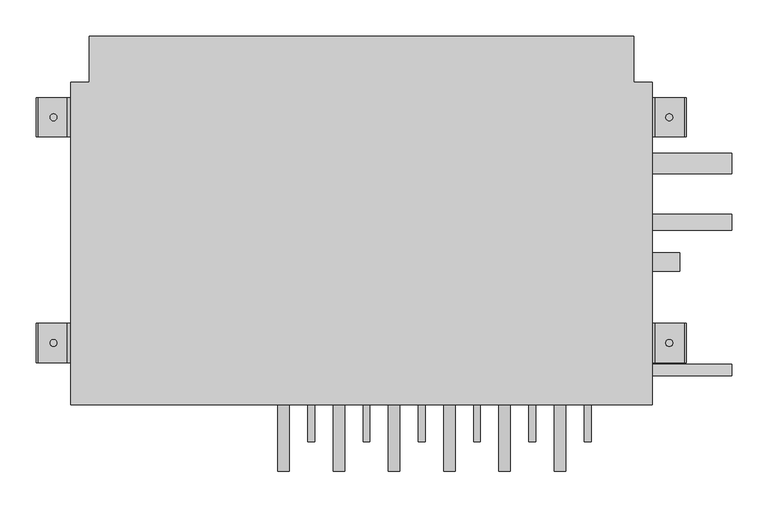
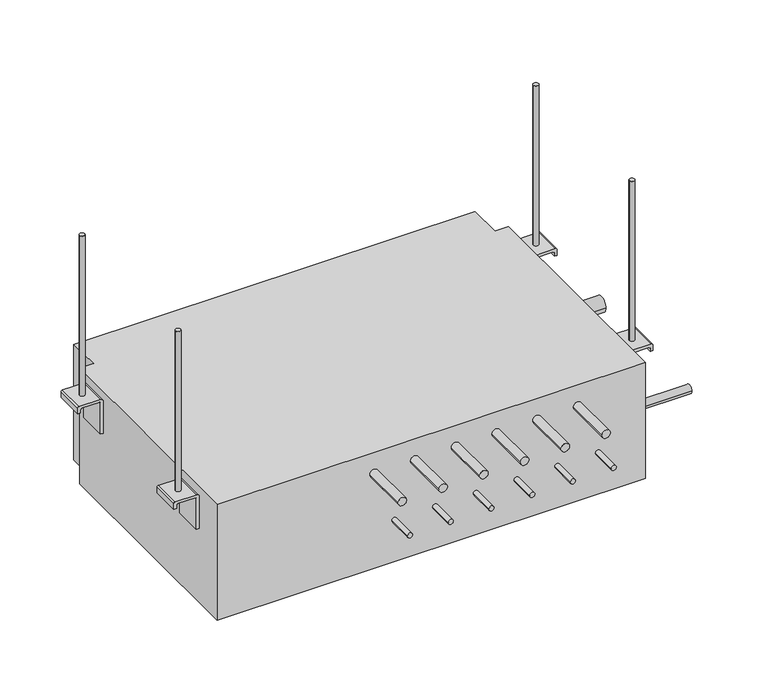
"""IFC4 building model written with IfcOpenShell, lengths in millimetres: proxy geometry, Lennox-VRF-Mode_Selection_Box-V8MSBB04-2P_Series : V8MSBB04."""

import ifcopenshell
import ifcopenshell.guid

model = None  # the IFC model being written
_history = None  # IfcOwnerHistory: only IFC2X3 demands one
_inside = {}  # id of a spatial element -> (the spatial element, [elements in it])
_under = {}  # id of a project, library or spatial element -> (it, [spatial elements below it])
_declared = {}  # id of a project -> (the project, [libraries it declares])
_typed = {}  # id of a type object -> (the type object, [elements of that type])
_made_of = {}  # id of a material, layer set ... -> (it, [elements and type objects made of it])


def new_model(schema):
    """Start an empty IFC model of exactly this schema.

    Asked for "IFC4X3", IfcOpenShell would pick the latest addendum, in which some entities
    have other attributes; the version numbers below select the first issue.
    IFC2X3 requires an IfcOwnerHistory on every rooted entity: one is made here for all.
    """
    global model, _history
    if schema == "IFC4X3":
        model = ifcopenshell.file(schema_version=(4, 3, 0, 0))
    else:
        model = ifcopenshell.file(schema=schema)
    _inside.clear()
    _under.clear()
    _declared.clear()
    _typed.clear()
    _made_of.clear()
    _history = None
    if model.schema == "IFC2X3":
        org = make("IfcOrganization", Name="unknown")
        user = make(
            "IfcPersonAndOrganization",
            ThePerson=make("IfcPerson", FamilyName="unknown"),
            TheOrganization=org,
        )
        app = make(
            "IfcApplication",
            ApplicationDeveloper=org,
            Version="unknown",
            ApplicationFullName="unknown",
            ApplicationIdentifier="unknown",
        )
        _history = make(
            "IfcOwnerHistory",
            OwningUser=user,
            OwningApplication=app,
            ChangeAction="ADDED",
            CreationDate=0,
        )
    return model


def make(cls, **values):
    """One entity of the class cls with the attributes given. An attribute that is None is left unset."""
    return model.create_entity(
        cls, **{name: value for name, value in values.items() if value is not None}
    )


def rooted(cls, **values):
    """An entity with a GlobalId (a new one), such as an element, a storey or a relation."""
    return make(cls, GlobalId=ifcopenshell.guid.new(), OwnerHistory=_history, **values)


def si_unit(unit_type, name, prefix=None):
    """IfcSIUnit, for example si_unit("LENGTHUNIT", "METRE", prefix="MILLI")."""
    return make("IfcSIUnit", UnitType=unit_type, Prefix=prefix, Name=name)


def assignment(units):
    """IfcUnitAssignment: the units of a project."""
    return None if units is None else make("IfcUnitAssignment", Units=units)


def point(xyz):
    """IfcCartesianPoint."""
    return None if xyz is None else make("IfcCartesianPoint", Coordinates=xyz)


def direction(xyz):
    """IfcDirection."""
    return None if xyz is None else make("IfcDirection", DirectionRatios=xyz)


def frame(location, z_axis=None, x_axis=None):
    """IfcAxis2Placement3D, a coordinate frame: its origin and axes. An axis left out is left unset."""
    return make(
        "IfcAxis2Placement3D",
        Location=point(location),
        Axis=direction(z_axis),
        RefDirection=direction(x_axis),
    )


def frame_2d(location, x_axis=None):
    """IfcAxis2Placement2D, a coordinate frame in the plane: its origin and x axis."""
    return make(
        "IfcAxis2Placement2D", Location=point(location), RefDirection=direction(x_axis)
    )


def origin():
    """The frame at (0, 0, 0) with its axes left unset."""
    return frame((0.0, 0.0, 0.0))


def origin_with_axes():
    """The frame at (0, 0, 0) with the z axis (0, 0, 1) and the x axis (1, 0, 0) written out."""
    return frame((0.0, 0.0, 0.0), z_axis=(0.0, 0.0, 1.0), x_axis=(1.0, 0.0, 0.0))


def place(relative_to, where):
    """IfcLocalPlacement: puts the frame where relative to a parent placement (None: the world)."""
    return make(
        "IfcLocalPlacement", PlacementRelTo=relative_to, RelativePlacement=where
    )


def context(
    kind, dimensions, precision=None, world=None, true_north=None, identifier=None
):
    """IfcGeometricRepresentationContext, for example the 3D "Model" context."""
    return make(
        "IfcGeometricRepresentationContext",
        ContextIdentifier=identifier,
        ContextType=kind,
        CoordinateSpaceDimension=dimensions,
        Precision=precision,
        WorldCoordinateSystem=world,
        TrueNorth=true_north,
    )


def project(units=None, contexts=None):
    """IfcProject with its units and contexts."""
    return rooted(
        "IfcProject",
        Name="project",
        RepresentationContexts=contexts,
        UnitsInContext=assignment(units),
    )


def spatial(cls, under=None, at=None, **own):
    """A site, building, storey or space (cls), placed at a placement, below another one or the project."""
    s = rooted(cls, ObjectPlacement=at, **own)
    if under is not None:
        _under.setdefault(under.id(), (under, []))[1].append(s)
    return s


def polyline(points):
    """IfcPolyline through the points."""
    return make("IfcPolyline", Points=[point(p) for p in points])


def circle_curve(where, radius):
    """IfcCircle in the frame where."""
    return make("IfcCircle", Position=where, Radius=radius)


def trimmed(basis, trim1, trim2, sense, master):
    """IfcTrimmedCurve: the piece of a basis curve between two trims."""
    return make(
        "IfcTrimmedCurve",
        BasisCurve=basis,
        Trim1=trim1,
        Trim2=trim2,
        SenseAgreement=sense,
        MasterRepresentation=master,
    )


def segment(curve, same_sense, transition):
    """IfcCompositeCurveSegment."""
    return make(
        "IfcCompositeCurveSegment",
        Transition=transition,
        SameSense=same_sense,
        ParentCurve=curve,
    )


def composite_curve(segments, self_intersect=None):
    """IfcCompositeCurve: segments joined end to end."""
    return make("IfcCompositeCurve", Segments=segments, SelfIntersect=self_intersect)


def outline(outer, holes=None, kind="AREA"):
    """IfcArbitraryClosedProfileDef: a profile drawn as a closed curve; with holes, ...WithVoids."""
    if holes is None:
        return make("IfcArbitraryClosedProfileDef", ProfileType=kind, OuterCurve=outer)
    return make(
        "IfcArbitraryProfileDefWithVoids",
        ProfileType=kind,
        OuterCurve=outer,
        InnerCurves=holes,
    )


def extrude(swept, where, along, depth):
    """IfcExtrudedAreaSolid: the profile swept, set in the frame where, extruded along a direction by depth."""
    return make(
        "IfcExtrudedAreaSolid",
        SweptArea=swept,
        Position=where,
        ExtrudedDirection=direction(along),
        Depth=depth,
    )


def shape(context_of_items, identifier, shape_type, items):
    """IfcShapeRepresentation: the items that make up one representation, for example the "Body"."""
    return make(
        "IfcShapeRepresentation",
        ContextOfItems=context_of_items,
        RepresentationIdentifier=identifier,
        RepresentationType=shape_type,
        Items=items,
    )


def source(mapping_origin, context_of_items, identifier, shape_type, items):
    """IfcRepresentationMap: a shape defined once, which mapped items show again and again."""
    return make(
        "IfcRepresentationMap",
        MappingOrigin=mapping_origin,
        MappedRepresentation=shape(context_of_items, identifier, shape_type, items),
    )


def transform(
    local_origin,
    x_axis=None,
    y_axis=None,
    z_axis=None,
    scale=None,
    scale2=None,
    scale3=None,
    uniform=True,
):
    """IfcCartesianTransformationOperator3D, or its non-uniform kind. x_axis, y_axis, z_axis: its Axis1, 2, 3."""
    if uniform:
        return make(
            "IfcCartesianTransformationOperator3D",
            Axis1=direction(x_axis),
            Axis2=direction(y_axis),
            LocalOrigin=point(local_origin),
            Scale=scale,
            Axis3=direction(z_axis),
        )
    return make(
        "IfcCartesianTransformationOperator3DnonUniform",
        Axis1=direction(x_axis),
        Axis2=direction(y_axis),
        LocalOrigin=point(local_origin),
        Scale=scale,
        Axis3=direction(z_axis),
        Scale2=scale2,
        Scale3=scale3,
    )


def mapped(mapping_source, mapping_target):
    """IfcMappedItem: shows the shape of a source again, moved by a transform."""
    return make(
        "IfcMappedItem", MappingSource=mapping_source, MappingTarget=mapping_target
    )


def made_of(thing, what):
    """Note that an element or type object is made of a material, layer set ...; save() writes the relation."""
    if what is not None:
        _made_of.setdefault(what.id(), (what, []))[1].append(thing)
    return thing


def element(
    cls,
    number,
    at=None,
    inside=None,
    cuts=None,
    type_object=None,
    material=None,
    context=None,
    identifier="Body",
    shape_type=None,
    held_by="IfcProductDefinitionShape",
    body=None,
    shapes=None,
    **own,
):
    """One element of the class cls, such as IfcWall. Its Tag is "e" and its number.

    at: its placement. inside: the storey or other place that contains it. cuts: it is an
    opening in that element (IfcRelVoidsElement). A single representation is given by context,
    identifier, shape_type and body (its items); several are given by shapes. held_by: the class
    of the entity that holds the representations. save() writes the other relations.
    """
    e = rooted(cls, Tag="e%d" % number, ObjectPlacement=at, **own)
    if body is not None:
        shapes = [shape(context, identifier, shape_type, body)]
    if shapes is not None:
        e.Representation = make(held_by, Representations=shapes)
    if inside is not None:
        _inside.setdefault(inside.id(), (inside, []))[1].append(e)
    if cuts is not None:
        rooted(
            "IfcRelVoidsElement", RelatingBuildingElement=cuts, RelatedOpeningElement=e
        )
    if type_object is not None:
        _typed.setdefault(type_object.id(), (type_object, []))[1].append(e)
    return made_of(e, material)


def aggregate(whole, parts):
    """IfcRelAggregates: a whole, such as a stair, and the parts it consists of."""
    return rooted("IfcRelAggregates", RelatingObject=whole, RelatedObjects=parts)


def save(model, path):
    """Write the relations noted so far, then the file.

    IfcRelAggregates (storeys below a building ...), IfcRelContainedInSpatialStructure (elements
    in a storey), IfcRelDefinesByType, IfcRelAssociatesMaterial and IfcRelDeclares: one each for
    every whole, place, type object, material and project.
    """
    for whole, parts in _under.values():
        aggregate(whole, parts)
    for where, things in _inside.values():
        rooted(
            "IfcRelContainedInSpatialStructure",
            RelatedElements=things,
            RelatingStructure=where,
        )
    for kind, things in _typed.values():
        rooted("IfcRelDefinesByType", RelatedObjects=things, RelatingType=kind)
    for what, things in _made_of.values():
        rooted("IfcRelAssociatesMaterial", RelatedObjects=things, RelatingMaterial=what)
    for by, libraries in _declared.values():
        rooted("IfcRelDeclares", RelatingContext=by, RelatedDefinitions=libraries)
    model.write(path)


def plane_surface(at):
    """IfcPlane: the flat surface through the origin of the frame at, square to its z axis."""
    return make("IfcPlane", Position=at)


def cylinder_surface(at, radius):
    """IfcCylindricalSurface: all points at the distance radius from the z axis of the frame at."""
    return make("IfcCylindricalSurface", Position=at, Radius=radius)


def revolved_surface(curve, axis_point, axis_direction):
    """IfcSurfaceOfRevolution: the curve turned about the line through axis_point along axis_direction."""
    return make(
        "IfcSurfaceOfRevolution",
        SweptCurve=make("IfcArbitraryOpenProfileDef", ProfileType="CURVE", Curve=curve),
        AxisPosition=make("IfcAxis1Placement", Location=point(axis_point), Axis=direction(axis_direction)),
    )


def advanced_brep(points, edges, surfaces, faces):
    """IfcAdvancedBrep: a solid bounded by faces that lie on surfaces and meet in shared edges.

    An edge is (start, end): straight between two places in points (the first is 0);
    or (start, end, curve); or (start, end, curve, False) where it runs against its curve.
    A face is (place in surfaces, loops), or (place, loops, False) where it looks against
    its surface's normal. A loop lists edges by number (the first is 1), with a minus sign
    where the edge is run from its end to its start. The first loop is the outer one.
    """
    corners = [point(p) for p in points]
    vertices = [make("IfcVertexPoint", VertexGeometry=c) for c in corners]
    made = []
    for start, end, *more in edges:
        made.append(
            make(
                "IfcEdgeCurve",
                EdgeStart=vertices[start],
                EdgeEnd=vertices[end],
                EdgeGeometry=more[0] if more else make("IfcPolyline", Points=[corners[start], corners[end]]),
                SameSense=more[1] if len(more) > 1 else True,
            )
        )
    hull = []
    for where, loops, *sense in faces:
        bounds = []
        for j, loop in enumerate(loops):
            ring = [make("IfcOrientedEdge", EdgeElement=made[abs(k) - 1], Orientation=k > 0) for k in loop]
            bounds.append(
                make(
                    "IfcFaceOuterBound" if j == 0 else "IfcFaceBound",
                    Bound=make("IfcEdgeLoop", EdgeList=ring),
                    Orientation=True,
                )
            )
        hull.append(make("IfcAdvancedFace", Bounds=bounds, FaceSurface=surfaces[where], SameSense=sense[0] if sense else True))
    return make("IfcAdvancedBrep", Outer=make("IfcClosedShell", CfsFaces=hull))


def mechanical_equipment_c1accfc4(model_context):
    return source(origin(), model_context, "Body", "SolidModel", [
        advanced_brep(
        [(405.8741406, 115.2882187, 146.05), (405.8741406, 115.2882187, 207.01), (408.4141406, 115.2882187, 209.55), (440.6721406, 115.2882187, 209.55), (443.2121406, 115.2882187, 207.01), (443.2121406, 115.2882187, 200.66), (448.2921406, 115.2882187, 200.66), (448.2921406, 115.2882187, 212.09), (445.7521406, 115.2882187, 214.63), (405.3981577, 115.2882187, 214.63), (400.7941406, 115.2882187, 210.0259829), (400.7941406, 115.2882187, 146.05), (405.8741406, 169.164, 146.05), (400.7941406, 169.164, 146.05), (400.7941406, 169.164, 210.0259829), (405.3981577, 169.164, 214.63), (445.7521406, 169.164, 214.63), (448.2921406, 169.164, 212.09), (448.2921406, 169.164, 200.66), (443.2121406, 169.164, 200.66), (443.2121406, 169.164, 207.01), (440.6721406, 169.164, 209.55), (408.4141406, 169.164, 209.55), (405.8741406, 169.164, 207.01), (419.7806406, 142.2261094, 209.55), (429.3056406, 142.2261094, 209.55), (429.3056406, 142.2261094, 214.63), (419.7806406, 142.2261094, 214.63), (419.7806406, 142.2261094, 530.7875), (429.3056406, 142.2261094, 530.7875), (419.7806406, 142.2261094, 199.0), (429.3056406, 142.2261094, 199.0)],
        [
            (0, 1),
            (1, 2, circle_curve(frame((408.4141406, 115.2882187, 207.01), z_axis=(0.0, 1.0, 0.0), x_axis=(1.0, 0.0, 0.0)), 2.54)),
            (2, 3),
            (3, 4, circle_curve(frame((440.6721406, 115.2882187, 207.01), z_axis=(0.0, 1.0, 0.0), x_axis=(1.0, 0.0, 0.0)), 2.54)),
            (4, 5),
            (5, 6),
            (6, 7),
            (7, 8, circle_curve(frame((445.7521406, 115.2882187, 212.09), z_axis=(0.0, -1.0, 0.0), x_axis=(1.0, 0.0, 0.0)), 2.54)),
            (8, 9),
            (9, 10, circle_curve(frame((405.3981577, 115.2882187, 210.0259829), z_axis=(0.0, -1.0, 0.0), x_axis=(1.0, 0.0, 0.0)), 4.6040171)),
            (10, 11),
            (11, 0),
            (12, 13),
            (13, 14),
            (14, 15, circle_curve(frame((405.3981577, 169.164, 210.0259829), z_axis=(0.0, 1.0, 0.0), x_axis=(1.0, 0.0, 0.0)), 4.6040171)),
            (15, 16),
            (16, 17, circle_curve(frame((445.7521406, 169.164, 212.09), z_axis=(0.0, 1.0, 0.0), x_axis=(1.0, 0.0, 0.0)), 2.54)),
            (17, 18),
            (18, 19),
            (19, 20),
            (20, 21, circle_curve(frame((440.6721406, 169.164, 207.01), z_axis=(0.0, -1.0, 0.0), x_axis=(1.0, 0.0, 0.0)), 2.54)),
            (21, 22),
            (22, 23, circle_curve(frame((408.4141406, 169.164, 207.01), z_axis=(0.0, -1.0, 0.0), x_axis=(1.0, 0.0, 0.0)), 2.54)),
            (23, 12),
            (0, 12),
            (23, 1),
            (22, 2),
            (21, 3),
            (24, 25, circle_curve(frame((424.5431406, 142.2261094, 209.55), z_axis=(0.0, 0.0, 1.0), x_axis=(1.0, 0.0, 0.0)), 4.7625)),
            (25, 24, circle_curve(frame((424.5431406, 142.2261094, 209.55), z_axis=(0.0, 0.0, 1.0), x_axis=(1.0, 0.0, 0.0)), 4.7625)),
            (20, 4),
            (19, 5),
            (18, 6),
            (17, 7),
            (16, 8),
            (15, 9),
            (26, 27, circle_curve(frame((424.5431406, 142.2261094, 214.63), z_axis=(0.0, 0.0, -1.0), x_axis=(1.0, 0.0, 0.0)), 4.7625)),
            (27, 26, circle_curve(frame((424.5431406, 142.2261094, 214.63), z_axis=(0.0, 0.0, -1.0), x_axis=(1.0, 0.0, 0.0)), 4.7625)),
            (14, 10),
            (13, 11),
            (28, 29, circle_curve(frame((424.5431406, 142.2261094, 530.7875), z_axis=(0.0, 0.0, 1.0), x_axis=(1.0, 0.0, 0.0)), 4.7625)),
            (29, 28, circle_curve(frame((424.5431406, 142.2261094, 530.7875), z_axis=(0.0, 0.0, 1.0), x_axis=(1.0, 0.0, 0.0)), 4.7625)),
            (30, 31, circle_curve(frame((424.5431406, 142.2261094, 199.0), z_axis=(0.0, 0.0, -1.0), x_axis=(1.0, 0.0, 0.0)), 4.7625)),
            (31, 30, circle_curve(frame((424.5431406, 142.2261094, 199.0), z_axis=(0.0, 0.0, -1.0), x_axis=(1.0, 0.0, 0.0)), 4.7625)),
            (28, 27),
            (26, 29),
            (31, 25),
            (24, 30),
        ],
        [
            plane_surface(frame((405.8741406, 115.2882187, 146.05), z_axis=(0.0, -1.0, 0.0), x_axis=(0.0, 0.0, 1.0))),
            plane_surface(frame((405.8741406, 169.164, 146.05), z_axis=(0.0, 1.0, 0.0), x_axis=(0.0, 0.0, -1.0))),
            plane_surface(frame((405.8741406, 115.2882187, 146.05), z_axis=(1.0, 0.0, 0.0), x_axis=(0.0, 1.0, 0.0))),
            revolved_surface(polyline([(410.9541406, 169.164, 207.01), (410.9541406, 115.2882187, 207.01)]), (408.4141406, 169.164, 207.01), (0.0, 1.0, 0.0)),
            plane_surface(frame((408.4141406, 115.2882187, 209.55), z_axis=(0.0, 0.0, -1.0), x_axis=(0.0, 1.0, 0.0))),
            revolved_surface(polyline([(443.2121406, 169.164, 207.01), (443.2121406, 115.2882187, 207.01)]), (440.6721406, 169.164, 207.01), (0.0, 1.0, 0.0)),
            plane_surface(frame((443.2121406, 115.2882187, 207.01), z_axis=(-1.0, 0.0, 0.0), x_axis=(0.0, 1.0, 0.0))),
            plane_surface(frame((443.2121406, 115.2882187, 200.66), z_axis=(0.0, 0.0, -1.0), x_axis=(0.0, 1.0, 0.0))),
            plane_surface(frame((448.2921406, 115.2882187, 200.66), z_axis=(1.0, 0.0, 0.0), x_axis=(0.0, 1.0, 0.0))),
            cylinder_surface(frame((445.7521406, 169.164, 212.09), z_axis=(0.0, -1.0, 0.0), x_axis=(1.0, 0.0, 0.0)), 2.54),
            plane_surface(frame((445.7521406, 115.2882187, 214.63), z_axis=(0.0, 0.0, 1.0), x_axis=(0.0, 1.0, 0.0))),
            cylinder_surface(frame((405.3981577, 169.164, 210.0259829), z_axis=(0.0, -1.0, 0.0), x_axis=(1.0, 0.0, 0.0)), 4.6040171),
            plane_surface(frame((400.7941406, 115.2882187, 210.0259829), z_axis=(-1.0, 0.0, 0.0), x_axis=(0.0, 1.0, 0.0))),
            plane_surface(frame((400.7941406, 115.2882187, 146.05), z_axis=(0.0, 0.0, -1.0), x_axis=(0.0, 1.0, 0.0))),
            plane_surface(frame((429.3056406, 142.2261094, 530.7875), z_axis=(0.0, 0.0, 1.0), x_axis=(0.0, 1.0, 0.0))),
            plane_surface(frame((429.3056406, 142.2261094, 199.0), z_axis=(0.0, 0.0, -1.0), x_axis=(0.0, -1.0, 0.0))),
            cylinder_surface(frame((424.5431406, 142.2261094, 199.0), z_axis=(0.0, 0.0, 1.0), x_axis=(1.0, 0.0, 0.0)), 4.7625),
        ],
        [
            (0, [[1, 2, 3, 4, 5, 6, 7, 8, 9, 10, 11, 12]]),
            (1, [[13, 14, 15, 16, 17, 18, 19, 20, 21, 22, 23, 24]]),
            (2, [[-1, 25, -24, 26]]),
            (3, [[-2, -26, -23, 27]]),
            (4, [[-3, -27, -22, 28], [29, 30]]),
            (5, [[-4, -28, -21, 31]]),
            (6, [[-5, -31, -20, 32]]),
            (7, [[-6, -32, -19, 33]]),
            (8, [[-7, -33, -18, 34]]),
            (9, [[-8, -34, -17, 35]]),
            (10, [[-9, -35, -16, 36], [37, 38]]),
            (11, [[-10, -36, -15, 39]]),
            (12, [[-11, -39, -14, 40]]),
            (13, [[-12, -40, -13, -25]]),
            (14, [[41, 42]]),
            (15, [[43, 44]]),
            (16, [[-41, 45, -37, 46]]),
            (16, [[-44, 47, -29, 48]]),
            (16, [[-42, -46, -38, -45]]),
            (16, [[-43, -48, -30, -47]]),
        ],
    ),
        advanced_brep(
        [(405.8741406, -195.834, 146.05), (405.8741406, -195.834, 207.01), (408.4141406, -195.834, 209.55), (440.6721406, -195.834, 209.55), (443.2121406, -195.834, 207.01), (443.2121406, -195.834, 200.66), (448.2921406, -195.834, 200.66), (448.2921406, -195.834, 212.09), (445.7521406, -195.834, 214.63), (405.3981577, -195.834, 214.63), (400.7941406, -195.834, 210.0259829), (400.7941406, -195.834, 146.05), (405.8741406, -141.986, 146.05), (400.7941406, -141.986, 146.05), (400.7941406, -141.986, 210.0259829), (405.3981577, -141.986, 214.63), (445.7521406, -141.986, 214.63), (448.2921406, -141.986, 212.09), (448.2921406, -141.986, 200.66), (443.2121406, -141.986, 200.66), (443.2121406, -141.986, 207.01), (440.6721406, -141.986, 209.55), (408.4141406, -141.986, 209.55), (405.8741406, -141.986, 207.01), (419.7806406, -168.91, 209.55), (429.3056406, -168.91, 209.55), (429.3056406, -168.91, 214.63), (419.7806406, -168.91, 214.63), (419.7806406, -168.91, 530.7875), (429.3056406, -168.91, 530.7875), (419.7806406, -168.91, 199.0), (429.3056406, -168.91, 199.0)],
        [
            (0, 1),
            (1, 2, circle_curve(frame((408.4141406, -195.834, 207.01), z_axis=(0.0, 1.0, 0.0), x_axis=(1.0, 0.0, 0.0)), 2.54)),
            (2, 3),
            (3, 4, circle_curve(frame((440.6721406, -195.834, 207.01), z_axis=(0.0, 1.0, 0.0), x_axis=(1.0, 0.0, 0.0)), 2.54)),
            (4, 5),
            (5, 6),
            (6, 7),
            (7, 8, circle_curve(frame((445.7521406, -195.834, 212.09), z_axis=(0.0, -1.0, 0.0), x_axis=(1.0, 0.0, 0.0)), 2.54)),
            (8, 9),
            (9, 10, circle_curve(frame((405.3981577, -195.834, 210.0259829), z_axis=(0.0, -1.0, 0.0), x_axis=(1.0, 0.0, 0.0)), 4.6040171)),
            (10, 11),
            (11, 0),
            (12, 13),
            (13, 14),
            (14, 15, circle_curve(frame((405.3981577, -141.986, 210.0259829), z_axis=(0.0, 1.0, 0.0), x_axis=(1.0, 0.0, 0.0)), 4.6040171)),
            (15, 16),
            (16, 17, circle_curve(frame((445.7521406, -141.986, 212.09), z_axis=(0.0, 1.0, 0.0), x_axis=(1.0, 0.0, 0.0)), 2.54)),
            (17, 18),
            (18, 19),
            (19, 20),
            (20, 21, circle_curve(frame((440.6721406, -141.986, 207.01), z_axis=(0.0, -1.0, 0.0), x_axis=(1.0, 0.0, 0.0)), 2.54)),
            (21, 22),
            (22, 23, circle_curve(frame((408.4141406, -141.986, 207.01), z_axis=(0.0, -1.0, 0.0), x_axis=(1.0, 0.0, 0.0)), 2.54)),
            (23, 12),
            (0, 12),
            (23, 1),
            (22, 2),
            (21, 3),
            (24, 25, circle_curve(frame((424.5431406, -168.91, 209.55), z_axis=(0.0, 0.0, 1.0), x_axis=(1.0, 0.0, 0.0)), 4.7625)),
            (25, 24, circle_curve(frame((424.5431406, -168.91, 209.55), z_axis=(0.0, 0.0, 1.0), x_axis=(1.0, 0.0, 0.0)), 4.7625)),
            (20, 4),
            (19, 5),
            (18, 6),
            (17, 7),
            (16, 8),
            (15, 9),
            (26, 27, circle_curve(frame((424.5431406, -168.91, 214.63), z_axis=(0.0, 0.0, -1.0), x_axis=(1.0, 0.0, 0.0)), 4.7625)),
            (27, 26, circle_curve(frame((424.5431406, -168.91, 214.63), z_axis=(0.0, 0.0, -1.0), x_axis=(1.0, 0.0, 0.0)), 4.7625)),
            (14, 10),
            (13, 11),
            (28, 29, circle_curve(frame((424.5431406, -168.91, 530.7875), z_axis=(0.0, 0.0, 1.0), x_axis=(1.0, 0.0, 0.0)), 4.7625)),
            (29, 28, circle_curve(frame((424.5431406, -168.91, 530.7875), z_axis=(0.0, 0.0, 1.0), x_axis=(1.0, 0.0, 0.0)), 4.7625)),
            (30, 31, circle_curve(frame((424.5431406, -168.91, 199.0), z_axis=(0.0, 0.0, -1.0), x_axis=(1.0, 0.0, 0.0)), 4.7625)),
            (31, 30, circle_curve(frame((424.5431406, -168.91, 199.0), z_axis=(0.0, 0.0, -1.0), x_axis=(1.0, 0.0, 0.0)), 4.7625)),
            (28, 27),
            (26, 29),
            (31, 25),
            (24, 30),
        ],
        [
            plane_surface(frame((405.8741406, -195.834, 146.05), z_axis=(0.0, -1.0, 0.0), x_axis=(0.0, 0.0, 1.0))),
            plane_surface(frame((405.8741406, -141.986, 146.05), z_axis=(0.0, 1.0, 0.0), x_axis=(0.0, 0.0, -1.0))),
            plane_surface(frame((405.8741406, -195.834, 146.05), z_axis=(1.0, 0.0, 0.0), x_axis=(0.0, 1.0, 0.0))),
            revolved_surface(polyline([(410.9541406, -141.986, 207.01), (410.9541406, -195.834, 207.01)]), (408.4141406, -141.986, 207.01), (0.0, 1.0, 0.0)),
            plane_surface(frame((408.4141406, -195.834, 209.55), z_axis=(0.0, 0.0, -1.0), x_axis=(0.0, 1.0, 0.0))),
            revolved_surface(polyline([(443.2121406, -141.986, 207.01), (443.2121406, -195.834, 207.01)]), (440.6721406, -141.986, 207.01), (0.0, 1.0, 0.0)),
            plane_surface(frame((443.2121406, -195.834, 207.01), z_axis=(-1.0, 0.0, 0.0), x_axis=(0.0, 1.0, 0.0))),
            plane_surface(frame((443.2121406, -195.834, 200.66), z_axis=(0.0, 0.0, -1.0), x_axis=(0.0, 1.0, 0.0))),
            plane_surface(frame((448.2921406, -195.834, 200.66), z_axis=(1.0, 0.0, 0.0), x_axis=(0.0, 1.0, 0.0))),
            cylinder_surface(frame((445.7521406, -141.986, 212.09), z_axis=(0.0, -1.0, 0.0), x_axis=(1.0, 0.0, 0.0)), 2.54),
            plane_surface(frame((445.7521406, -195.834, 214.63), z_axis=(0.0, 0.0, 1.0), x_axis=(0.0, 1.0, 0.0))),
            cylinder_surface(frame((405.3981577, -141.986, 210.0259829), z_axis=(0.0, -1.0, 0.0), x_axis=(1.0, 0.0, 0.0)), 4.6040171),
            plane_surface(frame((400.7941406, -195.834, 210.0259829), z_axis=(-1.0, 0.0, -2.0734534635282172e-12), x_axis=(0.0, 1.0, 0.0))),
            plane_surface(frame((400.7941406, -195.834, 146.05), z_axis=(0.0, 0.0, -1.0), x_axis=(0.0, 1.0, 0.0))),
            plane_surface(frame((429.3056406, 142.2261094, 530.7875), z_axis=(0.0, 0.0, 1.0), x_axis=(0.0, 1.0, 0.0))),
            plane_surface(frame((429.3056406, 142.2261094, 199.0), z_axis=(0.0, 0.0, -1.0), x_axis=(0.0, -1.0, 0.0))),
            cylinder_surface(frame((424.5431406, -168.91, 0.0), z_axis=(0.0, 0.0, 1.0), x_axis=(1.0, 0.0, 0.0)), 4.7625),
        ],
        [
            (0, [[1, 2, 3, 4, 5, 6, 7, 8, 9, 10, 11, 12]]),
            (1, [[13, 14, 15, 16, 17, 18, 19, 20, 21, 22, 23, 24]]),
            (2, [[-1, 25, -24, 26]]),
            (3, [[-2, -26, -23, 27]]),
            (4, [[-3, -27, -22, 28], [29, 30]]),
            (5, [[-4, -28, -21, 31]]),
            (6, [[-5, -31, -20, 32]]),
            (7, [[-6, -32, -19, 33]]),
            (8, [[-7, -33, -18, 34]]),
            (9, [[-8, -34, -17, 35]]),
            (10, [[-9, -35, -16, 36], [37, 38]]),
            (11, [[-10, -36, -15, 39]]),
            (12, [[-11, -39, -14, 40]]),
            (13, [[-12, -40, -13, -25]]),
            (14, [[41, 42]]),
            (15, [[43, 44]]),
            (16, [[-41, 45, -37, 46]]),
            (16, [[-44, 47, -29, 48]]),
            (16, [[-42, -46, -38, -45]]),
            (16, [[-43, -48, -30, -47]]),
        ],
    ),
        advanced_brep(
        [(-400.7941406, 115.2882187, 146.05), (-400.7941406, 115.2882187, 210.0259829), (-405.3981577, 115.2882187, 214.63), (-445.7521406, 115.2882187, 214.63), (-448.2921406, 115.2882187, 212.09), (-448.2921406, 115.2882187, 200.66), (-443.2121406, 115.2882187, 200.66), (-443.2121406, 115.2882187, 207.01), (-440.6721406, 115.2882187, 209.55), (-408.4141406, 115.2882187, 209.55), (-405.8741406, 115.2882187, 207.01), (-405.8741406, 115.2882187, 146.05), (-400.7941406, 169.164, 146.05), (-405.8741406, 169.164, 146.05), (-405.8741406, 169.164, 207.01), (-408.4141406, 169.164, 209.55), (-440.6721406, 169.164, 209.55), (-443.2121406, 169.164, 207.01), (-443.2121406, 169.164, 200.66), (-448.2921406, 169.164, 200.66), (-448.2921406, 169.164, 212.09), (-445.7521406, 169.164, 214.63), (-405.3981577, 169.164, 214.63), (-400.7941406, 169.164, 210.0259829), (-419.7806406, 142.2261094, 214.63), (-429.3056406, 142.2261094, 214.63), (-429.3056406, 142.2261094, 209.55), (-419.7806406, 142.2261094, 209.55), (-429.3056406, 142.2261094, 530.7875), (-419.7806406, 142.2261094, 530.7875), (-429.3056406, 142.2261094, 199.0), (-419.7806406, 142.2261094, 199.0)],
        [
            (0, 1),
            (1, 2, circle_curve(frame((-405.3981577, 115.2882187, 210.0259829), z_axis=(0.0, -1.0, 0.0), x_axis=(1.0, 0.0, 0.0)), 4.6040171)),
            (2, 3),
            (3, 4, circle_curve(frame((-445.7521406, 115.2882187, 212.09), z_axis=(0.0, -1.0, 0.0), x_axis=(1.0, 0.0, 0.0)), 2.54)),
            (4, 5),
            (5, 6),
            (6, 7),
            (7, 8, circle_curve(frame((-440.6721406, 115.2882187, 207.01), z_axis=(0.0, 1.0, 0.0), x_axis=(1.0, 0.0, 0.0)), 2.54)),
            (8, 9),
            (9, 10, circle_curve(frame((-408.4141406, 115.2882187, 207.01), z_axis=(0.0, 1.0, 0.0), x_axis=(1.0, 0.0, 0.0)), 2.54)),
            (10, 11),
            (11, 0),
            (12, 13),
            (13, 14),
            (14, 15, circle_curve(frame((-408.4141406, 169.164, 207.01), z_axis=(0.0, -1.0, 0.0), x_axis=(1.0, 0.0, 0.0)), 2.54)),
            (15, 16),
            (16, 17, circle_curve(frame((-440.6721406, 169.164, 207.01), z_axis=(0.0, -1.0, 0.0), x_axis=(1.0, 0.0, 0.0)), 2.54)),
            (17, 18),
            (18, 19),
            (19, 20),
            (20, 21, circle_curve(frame((-445.7521406, 169.164, 212.09), z_axis=(0.0, 1.0, 0.0), x_axis=(1.0, 0.0, 0.0)), 2.54)),
            (21, 22),
            (22, 23, circle_curve(frame((-405.3981577, 169.164, 210.0259829), z_axis=(0.0, 1.0, 0.0), x_axis=(1.0, 0.0, 0.0)), 4.6040171)),
            (23, 12),
            (0, 12),
            (23, 1),
            (22, 2),
            (21, 3),
            (24, 25, circle_curve(frame((-424.5431406, 142.2261094, 214.63), z_axis=(0.0, 0.0, -1.0), x_axis=(1.0, 0.0, 0.0)), 4.7625)),
            (25, 24, circle_curve(frame((-424.5431406, 142.2261094, 214.63), z_axis=(0.0, 0.0, -1.0), x_axis=(1.0, 0.0, 0.0)), 4.7625)),
            (20, 4),
            (19, 5),
            (18, 6),
            (17, 7),
            (16, 8),
            (15, 9),
            (26, 27, circle_curve(frame((-424.5431406, 142.2261094, 209.55), z_axis=(0.0, 0.0, 1.0), x_axis=(1.0, 0.0, 0.0)), 4.7625)),
            (27, 26, circle_curve(frame((-424.5431406, 142.2261094, 209.55), z_axis=(0.0, 0.0, 1.0), x_axis=(1.0, 0.0, 0.0)), 4.7625)),
            (14, 10),
            (13, 11),
            (28, 29, circle_curve(frame((-424.5431406, 142.2261094, 530.7875), z_axis=(0.0, 0.0, 1.0), x_axis=(1.0, 0.0, 0.0)), 4.7625)),
            (29, 28, circle_curve(frame((-424.5431406, 142.2261094, 530.7875), z_axis=(0.0, 0.0, 1.0), x_axis=(1.0, 0.0, 0.0)), 4.7625)),
            (30, 31, circle_curve(frame((-424.5431406, 142.2261094, 199.0), z_axis=(0.0, 0.0, -1.0), x_axis=(1.0, 0.0, 0.0)), 4.7625)),
            (31, 30, circle_curve(frame((-424.5431406, 142.2261094, 199.0), z_axis=(0.0, 0.0, -1.0), x_axis=(1.0, 0.0, 0.0)), 4.7625)),
            (28, 25),
            (24, 29),
            (31, 27),
            (26, 30),
        ],
        [
            plane_surface(frame((-400.7941406, 115.2882187, 210.0259829), z_axis=(0.0, -1.0, 0.0), x_axis=(0.0, 0.0, 1.0))),
            plane_surface(frame((-400.7941406, 169.164, 210.0259829), z_axis=(0.0, 1.0, 0.0), x_axis=(0.0, 0.0, -1.0))),
            plane_surface(frame((-400.7941406, 115.2882187, 146.05), z_axis=(1.0, 0.0, 0.0), x_axis=(0.0, 1.0, 0.0))),
            cylinder_surface(frame((-405.3981577, 169.164, 210.0259829), z_axis=(0.0, -1.0, 0.0), x_axis=(1.0, 0.0, 0.0)), 4.6040171),
            plane_surface(frame((-405.3981577, 115.2882187, 214.63), z_axis=(0.0, 0.0, 1.0), x_axis=(0.0, 1.0, 0.0))),
            cylinder_surface(frame((-445.7521406, 169.164, 212.09), z_axis=(0.0, -1.0, 0.0), x_axis=(1.0, 0.0, 0.0)), 2.54),
            plane_surface(frame((-448.2921406, 115.2882187, 212.09), z_axis=(-1.0, 0.0, 0.0), x_axis=(0.0, 1.0, 0.0))),
            plane_surface(frame((-448.2921406, 115.2882187, 200.66), z_axis=(0.0, 0.0, -1.0), x_axis=(0.0, 1.0, 0.0))),
            plane_surface(frame((-443.2121406, 115.2882187, 200.66), z_axis=(1.0, 0.0, 0.0), x_axis=(0.0, 1.0, 0.0))),
            revolved_surface(polyline([(-438.13214059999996, 169.164, 207.01), (-438.13214059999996, 115.2882187, 207.01)]), (-440.6721406, 169.164, 207.01), (0.0, 1.0, 0.0)),
            plane_surface(frame((-440.6721406, 115.2882187, 209.55), z_axis=(0.0, 0.0, -1.0), x_axis=(0.0, 1.0, 0.0))),
            revolved_surface(polyline([(-405.8741406, 169.164, 207.01), (-405.8741406, 115.2882187, 207.01)]), (-408.4141406, 169.164, 207.01), (0.0, 1.0, 0.0)),
            plane_surface(frame((-405.8741406, 115.2882187, 207.01), z_axis=(-1.0, 0.0, 0.0), x_axis=(0.0, 1.0, 0.0))),
            plane_surface(frame((-405.8741406, 115.2882187, 146.05), z_axis=(0.0, 0.0, -1.0), x_axis=(0.0, 1.0, 0.0))),
            plane_surface(frame((429.3056406, 142.2261094, 530.7875), z_axis=(0.0, 0.0, 1.0), x_axis=(0.0, 1.0, 0.0))),
            plane_surface(frame((429.3056406, 142.2261094, 199.0), z_axis=(0.0, 0.0, -1.0), x_axis=(0.0, -1.0, 0.0))),
            cylinder_surface(frame((-424.5431406, 142.2261094, 0.0), z_axis=(0.0, 0.0, 1.0), x_axis=(1.0, 0.0, 0.0)), 4.7625),
        ],
        [
            (0, [[1, 2, 3, 4, 5, 6, 7, 8, 9, 10, 11, 12]]),
            (1, [[13, 14, 15, 16, 17, 18, 19, 20, 21, 22, 23, 24]]),
            (2, [[-1, 25, -24, 26]]),
            (3, [[-2, -26, -23, 27]]),
            (4, [[-3, -27, -22, 28], [29, 30]]),
            (5, [[-4, -28, -21, 31]]),
            (6, [[-5, -31, -20, 32]]),
            (7, [[-6, -32, -19, 33]]),
            (8, [[-7, -33, -18, 34]]),
            (9, [[-8, -34, -17, 35]]),
            (10, [[-9, -35, -16, 36], [37, 38]]),
            (11, [[-10, -36, -15, 39]]),
            (12, [[-11, -39, -14, 40]]),
            (13, [[-12, -40, -13, -25]]),
            (14, [[41, 42]]),
            (15, [[43, 44]]),
            (16, [[-41, 45, -29, 46]]),
            (16, [[-44, 47, -37, 48]]),
            (16, [[-42, -46, -30, -45]]),
            (16, [[-43, -48, -38, -47]]),
        ],
    ),
        advanced_brep(
        [(-400.7941406, -195.834, 146.05), (-400.7941406, -195.834, 210.0259829), (-405.3981577, -195.834, 214.63), (-445.7521406, -195.834, 214.63), (-448.2921406, -195.834, 212.09), (-448.2921406, -195.834, 200.66), (-443.2121406, -195.834, 200.66), (-443.2121406, -195.834, 207.01), (-440.6721406, -195.834, 209.55), (-408.4141406, -195.834, 209.55), (-405.8741406, -195.834, 207.01), (-405.8741406, -195.834, 146.05), (-400.7941406, -141.986, 146.05), (-405.8741406, -141.986, 146.05), (-405.8741406, -141.986, 207.01), (-408.4141406, -141.986, 209.55), (-440.6721406, -141.986, 209.55), (-443.2121406, -141.986, 207.01), (-443.2121406, -141.986, 200.66), (-448.2921406, -141.986, 200.66), (-448.2921406, -141.986, 212.09), (-445.7521406, -141.986, 214.63), (-405.3981577, -141.986, 214.63), (-400.7941406, -141.986, 210.0259829), (-419.7806406, -168.91, 214.63), (-429.3056406, -168.91, 214.63), (-429.3056406, -168.91, 209.55), (-419.7806406, -168.91, 209.55), (-429.3056406, -168.91, 530.7875), (-419.7806406, -168.91, 530.7875), (-429.3056406, -168.91, 199.0), (-419.7806406, -168.91, 199.0)],
        [
            (0, 1),
            (1, 2, circle_curve(frame((-405.3981577, -195.834, 210.0259829), z_axis=(0.0, -1.0, 0.0), x_axis=(1.0, 0.0, 0.0)), 4.6040171)),
            (2, 3),
            (3, 4, circle_curve(frame((-445.7521406, -195.834, 212.09), z_axis=(0.0, -1.0, 0.0), x_axis=(1.0, 0.0, 0.0)), 2.54)),
            (4, 5),
            (5, 6),
            (6, 7),
            (7, 8, circle_curve(frame((-440.6721406, -195.834, 207.01), z_axis=(0.0, 1.0, 0.0), x_axis=(1.0, 0.0, 0.0)), 2.54)),
            (8, 9),
            (9, 10, circle_curve(frame((-408.4141406, -195.834, 207.01), z_axis=(0.0, 1.0, 0.0), x_axis=(1.0, 0.0, 0.0)), 2.54)),
            (10, 11),
            (11, 0),
            (12, 13),
            (13, 14),
            (14, 15, circle_curve(frame((-408.4141406, -141.986, 207.01), z_axis=(0.0, -1.0, 0.0), x_axis=(1.0, 0.0, 0.0)), 2.54)),
            (15, 16),
            (16, 17, circle_curve(frame((-440.6721406, -141.986, 207.01), z_axis=(0.0, -1.0, 0.0), x_axis=(1.0, 0.0, 0.0)), 2.54)),
            (17, 18),
            (18, 19),
            (19, 20),
            (20, 21, circle_curve(frame((-445.7521406, -141.986, 212.09), z_axis=(0.0, 1.0, 0.0), x_axis=(1.0, 0.0, 0.0)), 2.54)),
            (21, 22),
            (22, 23, circle_curve(frame((-405.3981577, -141.986, 210.0259829), z_axis=(0.0, 1.0, 0.0), x_axis=(1.0, 0.0, 0.0)), 4.6040171)),
            (23, 12),
            (0, 12),
            (23, 1),
            (22, 2),
            (21, 3),
            (24, 25, circle_curve(frame((-424.5431406, -168.91, 214.63), z_axis=(0.0, 0.0, -1.0), x_axis=(1.0, 0.0, 0.0)), 4.7625)),
            (25, 24, circle_curve(frame((-424.5431406, -168.91, 214.63), z_axis=(0.0, 0.0, -1.0), x_axis=(1.0, 0.0, 0.0)), 4.7625)),
            (20, 4),
            (19, 5),
            (18, 6),
            (17, 7),
            (16, 8),
            (15, 9),
            (26, 27, circle_curve(frame((-424.5431406, -168.91, 209.55), z_axis=(0.0, 0.0, 1.0), x_axis=(1.0, 0.0, 0.0)), 4.7625)),
            (27, 26, circle_curve(frame((-424.5431406, -168.91, 209.55), z_axis=(0.0, 0.0, 1.0), x_axis=(1.0, 0.0, 0.0)), 4.7625)),
            (14, 10),
            (13, 11),
            (28, 29, circle_curve(frame((-424.5431406, -168.91, 530.7875), z_axis=(0.0, 0.0, 1.0), x_axis=(1.0, 0.0, 0.0)), 4.7625)),
            (29, 28, circle_curve(frame((-424.5431406, -168.91, 530.7875), z_axis=(0.0, 0.0, 1.0), x_axis=(1.0, 0.0, 0.0)), 4.7625)),
            (30, 31, circle_curve(frame((-424.5431406, -168.91, 199.0), z_axis=(0.0, 0.0, -1.0), x_axis=(1.0, 0.0, 0.0)), 4.7625)),
            (31, 30, circle_curve(frame((-424.5431406, -168.91, 199.0), z_axis=(0.0, 0.0, -1.0), x_axis=(1.0, 0.0, 0.0)), 4.7625)),
            (28, 25),
            (24, 29),
            (31, 27),
            (26, 30),
        ],
        [
            plane_surface(frame((-400.7941406, -195.834, 210.0259829), z_axis=(0.0, -1.0, 0.0), x_axis=(0.0, 0.0, 1.0))),
            plane_surface(frame((-400.7941406, -141.986, 210.0259829), z_axis=(0.0, 1.0, 0.0), x_axis=(0.0, 0.0, -1.0))),
            plane_surface(frame((-400.7941406, -195.834, 146.05), z_axis=(1.0, 0.0, 0.0), x_axis=(0.0, 1.0, 0.0))),
            cylinder_surface(frame((-405.3981577, -141.986, 210.0259829), z_axis=(0.0, -1.0, 0.0), x_axis=(1.0, 0.0, 0.0)), 4.6040171),
            plane_surface(frame((-405.3981577, -195.834, 214.63), z_axis=(0.0, 0.0, 1.0), x_axis=(0.0, 1.0, 0.0))),
            cylinder_surface(frame((-445.7521406, -141.986, 212.09), z_axis=(0.0, -1.0, 0.0), x_axis=(1.0, 0.0, 0.0)), 2.54),
            plane_surface(frame((-448.2921406, -195.834, 212.09), z_axis=(-1.0, 0.0, 0.0), x_axis=(0.0, 1.0, 0.0))),
            plane_surface(frame((-448.2921406, -195.834, 200.66), z_axis=(0.0, 0.0, -1.0), x_axis=(0.0, 1.0, 0.0))),
            plane_surface(frame((-443.2121406, -195.834, 200.66), z_axis=(1.0, 0.0, 0.0), x_axis=(0.0, 1.0, 0.0))),
            revolved_surface(polyline([(-438.13214059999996, -141.986, 207.01), (-438.13214059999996, -195.834, 207.01)]), (-440.6721406, -141.986, 207.01), (0.0, 1.0, 0.0)),
            plane_surface(frame((-440.6721406, -195.834, 209.55), z_axis=(0.0, 0.0, -1.0), x_axis=(0.0, 1.0, 0.0))),
            revolved_surface(polyline([(-405.8741406, -141.986, 207.01), (-405.8741406, -195.834, 207.01)]), (-408.4141406, -141.986, 207.01), (0.0, 1.0, 0.0)),
            plane_surface(frame((-405.8741406, -195.834, 207.01), z_axis=(-1.0, 0.0, 0.0), x_axis=(0.0, 1.0, 0.0))),
            plane_surface(frame((-405.8741406, -195.834, 146.05), z_axis=(0.0, 0.0, -1.0), x_axis=(0.0, 1.0, 0.0))),
            plane_surface(frame((429.3056406, 142.2261094, 530.7875), z_axis=(0.0, 0.0, 1.0), x_axis=(0.0, 1.0, 0.0))),
            plane_surface(frame((429.3056406, 142.2261094, 199.0), z_axis=(0.0, 0.0, -1.0), x_axis=(0.0, -1.0, 0.0))),
            cylinder_surface(frame((-424.5431406, -168.91, 0.0), z_axis=(0.0, 0.0, 1.0), x_axis=(1.0, 0.0, 0.0)), 4.7625),
        ],
        [
            (0, [[1, 2, 3, 4, 5, 6, 7, 8, 9, 10, 11, 12]]),
            (1, [[13, 14, 15, 16, 17, 18, 19, 20, 21, 22, 23, 24]]),
            (2, [[-1, 25, -24, 26]]),
            (3, [[-2, -26, -23, 27]]),
            (4, [[-3, -27, -22, 28], [29, 30]]),
            (5, [[-4, -28, -21, 31]]),
            (6, [[-5, -31, -20, 32]]),
            (7, [[-6, -32, -19, 33]]),
            (8, [[-7, -33, -18, 34]]),
            (9, [[-8, -34, -17, 35]]),
            (10, [[-9, -35, -16, 36], [37, 38]]),
            (11, [[-10, -36, -15, 39]]),
            (12, [[-11, -39, -14, 40]]),
            (13, [[-12, -40, -13, -25]]),
            (14, [[41, 42]]),
            (15, [[43, 44]]),
            (16, [[-41, 45, -29, 46]]),
            (16, [[-44, 47, -37, 48]]),
            (16, [[-42, -46, -30, -45]]),
            (16, [[-43, -48, -38, -47]]),
        ],
    ),
        extrude(outline(composite_curve([segment(trimmed(circle_curve(frame_2d((82.55, 311.8941406)), 4.7625), [point((82.55, 307.1316406))], [point((82.55, 316.6566406))], False, "CARTESIAN"), True, "CONTINUOUS"), segment(trimmed(circle_curve(frame_2d((82.55, 311.8941406)), 4.7625), [point((82.55, 316.6566406))], [point((82.55, 307.1316406))], False, "CARTESIAN"), True, "CONTINUOUS")], self_intersect=False)), frame((0.0, -304.8, 0.0), z_axis=(0.0, 1.0, 0.0), x_axis=(0.0, 0.0, 1.0)), (0.0, 0.0, 1.0), 50.8),
        extrude(outline(composite_curve([segment(trimmed(circle_curve(frame_2d((82.55, 235.6941406)), 4.7625), [point((82.55, 230.9316406))], [point((82.55, 240.4566406))], False, "CARTESIAN"), True, "CONTINUOUS"), segment(trimmed(circle_curve(frame_2d((82.55, 235.6941406)), 4.7625), [point((82.55, 240.4566406))], [point((82.55, 230.9316406))], False, "CARTESIAN"), True, "CONTINUOUS")], self_intersect=False)), frame((0.0, -304.8, 0.0), z_axis=(0.0, 1.0, 0.0), x_axis=(0.0, 0.0, 1.0)), (0.0, 0.0, 1.0), 50.8),
        extrude(outline(composite_curve([segment(trimmed(circle_curve(frame_2d((82.55, 159.4941406)), 4.7625), [point((82.55, 154.7316406))], [point((82.55, 164.2566406))], False, "CARTESIAN"), True, "CONTINUOUS"), segment(trimmed(circle_curve(frame_2d((82.55, 159.4941406)), 4.7625), [point((82.55, 164.2566406))], [point((82.55, 154.7316406))], False, "CARTESIAN"), True, "CONTINUOUS")], self_intersect=False)), frame((0.0, -304.8, 0.0), z_axis=(0.0, 1.0, 0.0), x_axis=(0.0, 0.0, 1.0)), (0.0, 0.0, 1.0), 50.8),
        extrude(outline(composite_curve([segment(trimmed(circle_curve(frame_2d((82.55, 83.2941406)), 4.7625), [point((82.55, 78.5316406))], [point((82.55, 88.0566406))], False, "CARTESIAN"), True, "CONTINUOUS"), segment(trimmed(circle_curve(frame_2d((82.55, 83.2941406)), 4.7625), [point((82.55, 88.0566406))], [point((82.55, 78.5316406))], False, "CARTESIAN"), True, "CONTINUOUS")], self_intersect=False)), frame((0.0, -304.8, 0.0), z_axis=(0.0, 1.0, 0.0), x_axis=(0.0, 0.0, 1.0)), (0.0, 0.0, 1.0), 50.8),
        extrude(outline(composite_curve([segment(trimmed(circle_curve(frame_2d((82.55, 7.0941406)), 4.7625), [point((82.55, 2.3316406))], [point((82.55, 11.8566406))], False, "CARTESIAN"), True, "CONTINUOUS"), segment(trimmed(circle_curve(frame_2d((82.55, 7.0941406)), 4.7625), [point((82.55, 11.8566406))], [point((82.55, 2.3316406))], False, "CARTESIAN"), True, "CONTINUOUS")], self_intersect=False)), frame((0.0, -304.8, 0.0), z_axis=(0.0, 1.0, 0.0), x_axis=(0.0, 0.0, 1.0)), (0.0, 0.0, 1.0), 50.8),
        extrude(outline(composite_curve([segment(trimmed(circle_curve(frame_2d((82.55, -69.1058594)), 4.7625), [point((82.55, -73.8683594))], [point((82.55, -64.3433594))], False, "CARTESIAN"), True, "CONTINUOUS"), segment(trimmed(circle_curve(frame_2d((82.55, -69.1058594)), 4.7625), [point((82.55, -64.3433594))], [point((82.55, -73.8683594))], False, "CARTESIAN"), True, "CONTINUOUS")], self_intersect=False)), frame((0.0, -304.8, 0.0), z_axis=(0.0, 1.0, 0.0), x_axis=(0.0, 0.0, 1.0)), (0.0, 0.0, 1.0), 50.8),
        extrude(outline(composite_curve([segment(trimmed(circle_curve(frame_2d((187.96, 273.7941406)), 7.9375), [point((187.96, 265.8566406))], [point((187.96, 281.7316406))], False, "CARTESIAN"), True, "CONTINUOUS"), segment(trimmed(circle_curve(frame_2d((187.96, 273.7941406)), 7.9375), [point((187.96, 281.7316406))], [point((187.96, 265.8566406))], False, "CARTESIAN"), True, "CONTINUOUS")], self_intersect=False)), frame((0.0, -346.075, 0.0), z_axis=(0.0, 1.0, 0.0), x_axis=(0.0, 0.0, 1.0)), (0.0, 0.0, 1.0), 92.075),
        extrude(outline(composite_curve([segment(trimmed(circle_curve(frame_2d((187.96, 197.5941406)), 7.9375), [point((187.96, 189.6566406))], [point((187.96, 205.5316406))], False, "CARTESIAN"), True, "CONTINUOUS"), segment(trimmed(circle_curve(frame_2d((187.96, 197.5941406)), 7.9375), [point((187.96, 205.5316406))], [point((187.96, 189.6566406))], False, "CARTESIAN"), True, "CONTINUOUS")], self_intersect=False)), frame((0.0, -346.075, 0.0), z_axis=(0.0, 1.0, 0.0), x_axis=(0.0, 0.0, 1.0)), (0.0, 0.0, 1.0), 92.075),
        extrude(outline(composite_curve([segment(trimmed(circle_curve(frame_2d((187.96, 121.3941406)), 7.9375), [point((187.96, 113.4566406))], [point((187.96, 129.3316406))], False, "CARTESIAN"), True, "CONTINUOUS"), segment(trimmed(circle_curve(frame_2d((187.96, 121.3941406)), 7.9375), [point((187.96, 129.3316406))], [point((187.96, 113.4566406))], False, "CARTESIAN"), True, "CONTINUOUS")], self_intersect=False)), frame((0.0, -346.075, 0.0), z_axis=(0.0, 1.0, 0.0), x_axis=(0.0, 0.0, 1.0)), (0.0, 0.0, 1.0), 92.075),
        extrude(outline(composite_curve([segment(trimmed(circle_curve(frame_2d((187.96, 45.1941406)), 7.9375), [point((187.96, 37.2566406))], [point((187.96, 53.1316406))], False, "CARTESIAN"), True, "CONTINUOUS"), segment(trimmed(circle_curve(frame_2d((187.96, 45.1941406)), 7.9375), [point((187.96, 53.1316406))], [point((187.96, 37.2566406))], False, "CARTESIAN"), True, "CONTINUOUS")], self_intersect=False)), frame((0.0, -346.075, 0.0), z_axis=(0.0, 1.0, 0.0), x_axis=(0.0, 0.0, 1.0)), (0.0, 0.0, 1.0), 92.075),
        extrude(outline(composite_curve([segment(trimmed(circle_curve(frame_2d((187.96, -31.0058594)), 7.9375), [point((187.96, -38.9433594))], [point((187.96, -23.0683594))], False, "CARTESIAN"), True, "CONTINUOUS"), segment(trimmed(circle_curve(frame_2d((187.96, -31.0058594)), 7.9375), [point((187.96, -23.0683594))], [point((187.96, -38.9433594))], False, "CARTESIAN"), True, "CONTINUOUS")], self_intersect=False)), frame((0.0, -346.075, 0.0), z_axis=(0.0, 1.0, 0.0), x_axis=(0.0, 0.0, 1.0)), (0.0, 0.0, 1.0), 92.075),
        extrude(outline(composite_curve([segment(trimmed(circle_curve(frame_2d((187.96, -107.2058594)), 7.9375), [point((187.96, -115.1433594))], [point((187.96, -99.2683594))], False, "CARTESIAN"), True, "CONTINUOUS"), segment(trimmed(circle_curve(frame_2d((187.96, -107.2058594)), 7.9375), [point((187.96, -99.2683594))], [point((187.96, -115.1433594))], False, "CARTESIAN"), True, "CONTINUOUS")], self_intersect=False)), frame((0.0, -346.075, 0.0), z_axis=(0.0, 1.0, 0.0), x_axis=(0.0, 0.0, 1.0)), (0.0, 0.0, 1.0), 92.075),
        extrude(outline(composite_curve([segment(trimmed(circle_curve(frame_2d((78.74, 105.41)), 14.2875), [point((64.4525, 105.41))], [point((93.0275, 105.41))], False, "CARTESIAN"), True, "CONTINUOUS"), segment(trimmed(circle_curve(frame_2d((78.74, 105.41)), 14.2875), [point((93.0275, 105.41))], [point((64.4525, 105.41))], False, "CARTESIAN"), True, "CONTINUOUS")], self_intersect=False)), frame((400.7941406, 0.0, 0.0), z_axis=(1.0, 0.0, 0.0), x_axis=(0.0, 1.0, 0.0)), (0.0, 0.0, 1.0), 109.9137188),
        extrude(outline(composite_curve([segment(trimmed(circle_curve(frame_2d((-2.54, 75.438)), 11.1125), [point((-13.6525, 75.438))], [point((8.5725, 75.438))], False, "CARTESIAN"), True, "CONTINUOUS"), segment(trimmed(circle_curve(frame_2d((-2.54, 75.438)), 11.1125), [point((8.5725, 75.438))], [point((-13.6525, 75.438))], False, "CARTESIAN"), True, "CONTINUOUS")], self_intersect=False)), frame((400.7941406, 0.0, 0.0), z_axis=(1.0, 0.0, 0.0), x_axis=(0.0, 1.0, 0.0)), (0.0, 0.0, 1.0), 109.9137188),
        extrude(outline(composite_curve([segment(trimmed(circle_curve(frame_2d((-57.15, 19.685)), 12.7), [point((-69.85, 19.685))], [point((-44.45, 19.685))], False, "CARTESIAN"), True, "CONTINUOUS"), segment(trimmed(circle_curve(frame_2d((-57.15, 19.685)), 12.7), [point((-44.45, 19.685))], [point((-69.85, 19.685))], False, "CARTESIAN"), True, "CONTINUOUS")], self_intersect=False)), frame((400.7941406, 0.0, 0.0), z_axis=(1.0, 0.0, 0.0), x_axis=(0.0, 1.0, 0.0)), (0.0, 0.0, 1.0), 38.1),
        extrude(outline(composite_curve([segment(trimmed(circle_curve(frame_2d((-206.0956, 109.982)), 7.9375), [point((-214.0331, 109.982))], [point((-198.1581, 109.982))], False, "CARTESIAN"), True, "CONTINUOUS"), segment(trimmed(circle_curve(frame_2d((-206.0956, 109.982)), 7.9375), [point((-198.1581, 109.982))], [point((-214.0331, 109.982))], False, "CARTESIAN"), True, "CONTINUOUS")], self_intersect=False)), frame((400.7941406, 0.0, 0.0), z_axis=(1.0, 0.0, 0.0), x_axis=(0.0, 1.0, 0.0)), (0.0, 0.0, 1.0), 109.9137188),
        extrude(outline(polyline([(375.3941406, 254.0), (375.3941406, 190.5), (400.7941406, 190.5), (400.7941406, -254.0), (-400.7941406, -254.0), (-400.7941406, 190.5), (-375.3941406, 190.5), (-375.3941406, 254.0), (375.3941406, 254.0)])), origin_with_axes(), (0.0, 0.0, 1.0), 229.0),
    ])


if __name__ == "__main__":
    model = new_model("IFC4")
    model_context = context("Model", 3, world=origin())
    ifc_project = project(units=[si_unit("LENGTHUNIT", "METRE", prefix="MILLI")], contexts=[model_context])
    site = spatial("IfcSite", under=ifc_project)
    building = spatial("IfcBuilding", under=site)
    placement = place(None, origin())
    mechanical_equipment_shape = mechanical_equipment_c1accfc4(model_context)
    element("IfcBuildingElementProxy", 1, Name="Lennox-VRF-Mode_Selection_Box-V8MSBB04-2P_Series : V8MSBB04", ObjectType="Lennox-VRF-Mode_Selection_Box-V8MSBB04-2P_Series : V8MSBB04", at=placement, inside=building, context=model_context, shape_type="MappedRepresentation", body=[
        mapped(mechanical_equipment_shape, transform((0.0, 0.0, 0.0), x_axis=(1.0, 0.0, 0.0), y_axis=(0.0, 1.0, 0.0), z_axis=(0.0, 0.0, 1.0))),
    ])
    save(model, "model.ifc")
